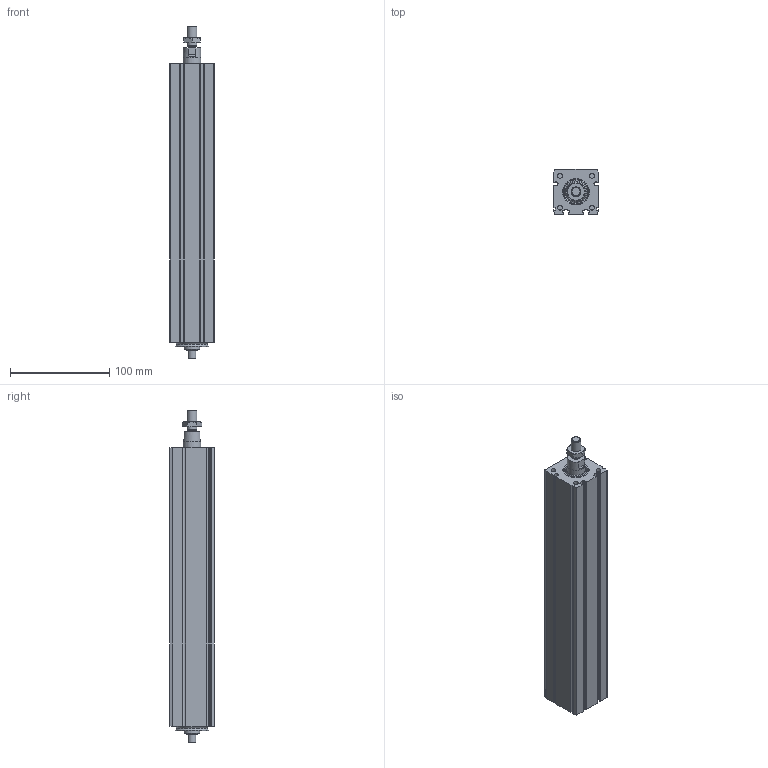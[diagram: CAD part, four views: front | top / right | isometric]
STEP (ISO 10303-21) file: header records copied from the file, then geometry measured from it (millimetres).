
FILE_DESCRIPTION(/* description */ ('STEP AP214'),/* implementation_level */ '2;1');
FILE_NAME(/* name */ 'MCE 45 1003 200 0(0)',/* time_stamp */ '2023-10-05T14:26:04+02:00',/* author */ ('License CC BY-ND 4.0'),/* organization */ ('CADENAS'),/* preprocessor_version */ 'ST-DEVELOPER v19.3',/* originating_system */ 'PARTsolutions',/* authorisation */ ' ');
FILE_SCHEMA (('AUTOMOTIVE_DESIGN {1 0 10303 214 3 1 1}'));
Length unit declared in the file: millimetre
Products named in the file (4): MCE 45 1003 200  0(0); 45_nut; 45(2000)_rod; 45(200)_msc
Assembly tree (3 placements, depth 2):
  MCE 45 1003 200  0(0)
    45_nut
    45(2000)_rod
    45(200)_msc
Bounding box: 45 x 45 x 334 mm (x, y, z)
Volume: 433630.1 mm3; surface area: 119361.9 mm2
Topology: 3 solids, 3 shells, 212 faces, 525 edges, 341 vertices
Faces by surface type: plane 92, cylinder 92, cone 23, torus 5
Full cylindrical faces by diameter (mm): 3.242 x4, 4.917 x4, 8 x2, 8.376 x1, 10 x1, 16 x1, 17.8 x1, 18 x2, 24 x1, 24.5 x1, 32.5 x2, 34 x2
Entity records: 6269 total; most frequent: CARTESIAN_POINT 1132, DIRECTION 1108, ORIENTED_EDGE 970, EDGE_CURVE 485, AXIS2_PLACEMENT_3D 433, VERTEX_POINT 339, EDGE_LOOP 274, FACE_BOUND 274
